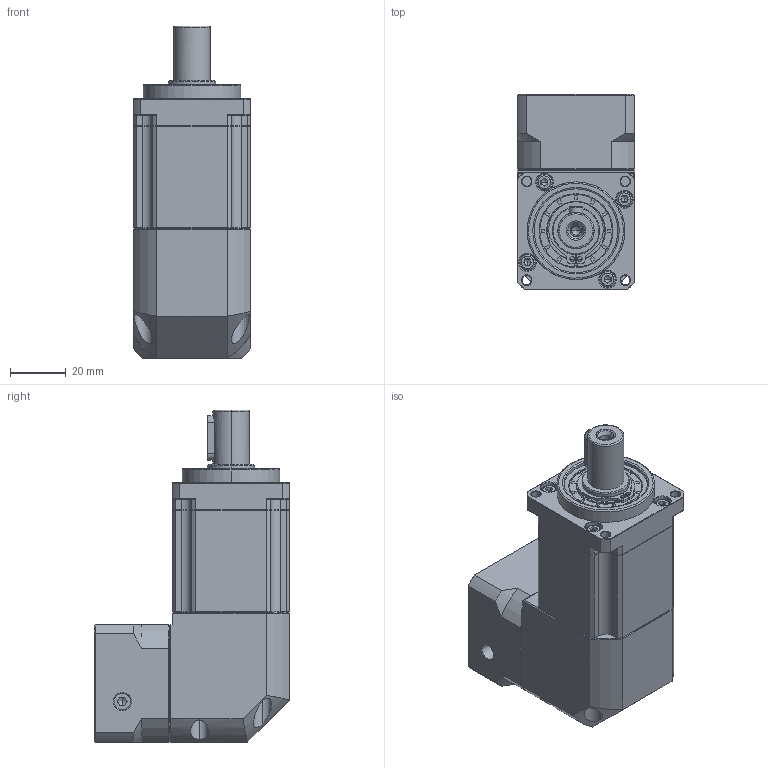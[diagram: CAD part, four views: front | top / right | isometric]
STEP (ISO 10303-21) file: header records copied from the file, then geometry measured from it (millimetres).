
FILE_DESCRIPTION (( 'STEP AP214' ), '1' );
FILE_NAME ('ZBR042-D13-L2-P2-8-30-46-M4.STEP', '2023-08-15T12:23:42', ( '' ), ( '' ), 'SwSTEP 2.0', 'SolidWorks 2016', '' );
FILE_SCHEMA (( 'AUTOMOTIVE_DESIGN' ));
Length unit declared in the file: millimetre
Products named in the file (1): ZBR042-D13-L2-P2-8-30-46-M4
Bounding box: 42 x 70 x 119 mm (x, y, z)
Volume: 180670.5 mm3; surface area: 43460.8 mm2
Topology: 7 solids, 7 shells, 2156 faces, 5779 edges, 3725 vertices
Faces by surface type: plane 1062, bspline 421, cylinder 405, cone 268
Entity records: 119756 total; most frequent: CARTESIAN_POINT 45774, ORIENTED_EDGE 11514, DIRECTION 8663, EDGE_CURVE 5757, VERTEX_POINT 3725, VECTOR 3675, LINE 3675, AXIS2_PLACEMENT_3D 2494
